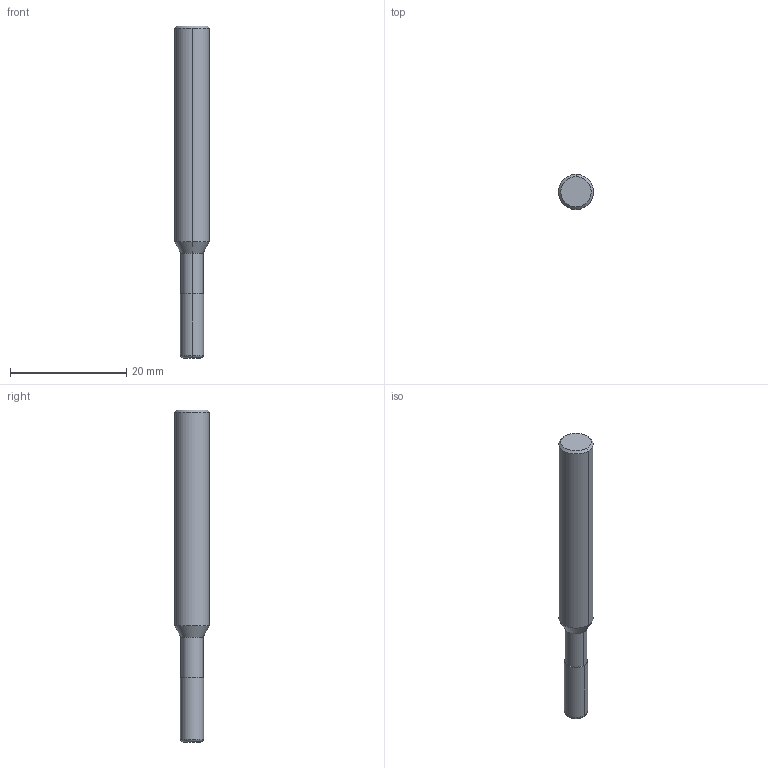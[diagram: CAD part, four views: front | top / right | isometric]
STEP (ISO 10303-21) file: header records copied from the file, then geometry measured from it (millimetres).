
FILE_DESCRIPTION((''),'2;1');
FILE_NAME('DIN4003_82_HEURO','2019-04-10T16:14:14',('automd'),(''),'CREO PARAMETRIC BY PTC INC, 2018400','CREO PARAMETRIC BY PTC INC, 2018400','');
FILE_SCHEMA(('AUTOMOTIVE_DESIGN { 1 0 10303 214 1 1 1 1 }'));
Length unit declared in the file: millimetre
Products named in the file (1): DIN4003_82_HEURO
Bounding box: 6 x 6 x 57 mm (x, y, z)
Volume: 1300 mm3; surface area: 989 mm2
Topology: 1 solids, 1 shells, 15 faces, 31 edges, 20 vertices
Faces by surface type: bspline 15
Entity records: 946 total; most frequent: CARTESIAN_POINT 386, DIRECTION 80, ORIENTED_EDGE 56, AXIS2_PLACEMENT_3D 31, EDGE_CURVE 28, PRESENTATION_STYLE_ASSIGNMENT 27, STYLED_ITEM 27, CIRCLE 19
